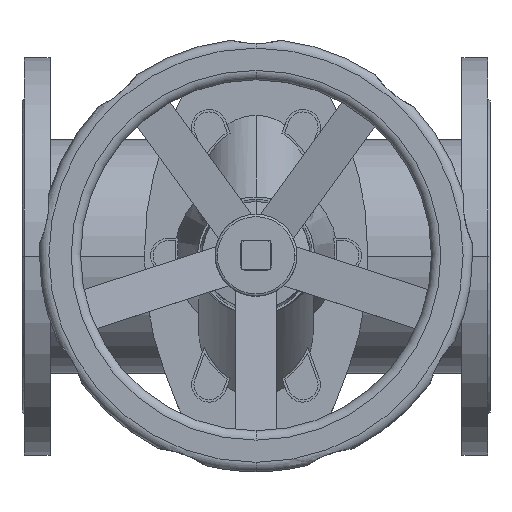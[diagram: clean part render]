
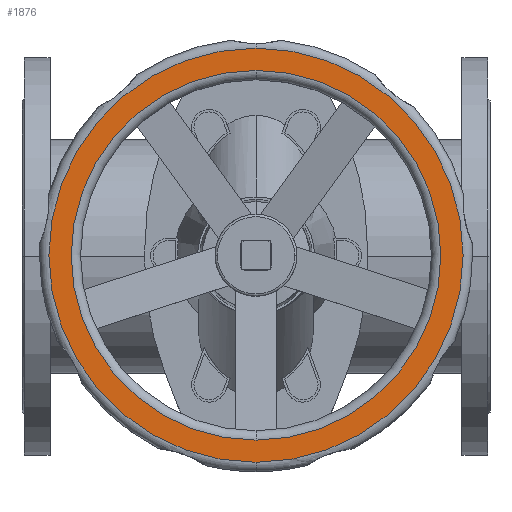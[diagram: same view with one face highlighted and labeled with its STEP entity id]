
A CAD part, top view. The second image highlights one B-rep face of the part: STEP entity #1876.
In plain terms, the highlighted planar face has unit normal (0, 0, 1).
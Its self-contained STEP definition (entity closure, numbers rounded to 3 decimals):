
#1876=ADVANCED_FACE('',(#3649,#3650),#3651,.T.);
#3649=FACE_BOUND('',#5777,.T.);
#3650=FACE_OUTER_BOUND('',#5778,.T.);
#3651=PLANE('',#5779);
#5777=EDGE_LOOP('',(#9614,#9615,#9616));
#5778=EDGE_LOOP('',(#9617,#9618,#9619));
#5779=AXIS2_PLACEMENT_3D('',#9620,#9621,#9622);
#9614=ORIENTED_EDGE('',*,*,#11517,.F.);
#9615=ORIENTED_EDGE('',*,*,#11516,.F.);
#9616=ORIENTED_EDGE('',*,*,#12878,.F.);
#9617=ORIENTED_EDGE('',*,*,#12879,.T.);
#9618=ORIENTED_EDGE('',*,*,#11716,.T.);
#9619=ORIENTED_EDGE('',*,*,#12880,.T.);
#9620=CARTESIAN_POINT('',(32.5,0.,590.0));
#9621=DIRECTION('',(0.,0.,1.0));
#9622=DIRECTION('',(-1.0,0.,0.));
#11516=EDGE_CURVE('',#13586,#13589,#13590,.T.);
#11517=EDGE_CURVE('',#13589,#13591,#13592,.T.);
#11716=EDGE_CURVE('',#13932,#13930,#13933,.T.);
#12878=EDGE_CURVE('',#13591,#13586,#15647,.T.);
#12879=EDGE_CURVE('',#15648,#13932,#15649,.T.);
#12880=EDGE_CURVE('',#13930,#15648,#15650,.T.);
#13586=VERTEX_POINT('',#16479);
#13589=VERTEX_POINT('',#16482);
#13590=CIRCLE('',#16483,158.0);
#13591=VERTEX_POINT('',#16484);
#13592=CIRCLE('',#16485,158.0);
#13930=VERTEX_POINT('',#16914);
#13932=VERTEX_POINT('',#16916);
#13933=CIRCLE('',#16917,177.0);
#15647=CIRCLE('',#19332,158.0);
#15648=VERTEX_POINT('',#19333);
#15649=CIRCLE('',#19334,177.0);
#15650=CIRCLE('',#19335,177.0);
#16479=CARTESIAN_POINT('',(200.0,158.0,590.0));
#16482=CARTESIAN_POINT('',(42.0,0.,590.0));
#16483=AXIS2_PLACEMENT_3D('',#20224,#20225,#20226);
#16484=CARTESIAN_POINT('',(200.0,-158.0,590.0));
#16485=AXIS2_PLACEMENT_3D('',#20227,#20228,#20229);
#16914=CARTESIAN_POINT('',(200.0,177.0,590.0));
#16916=CARTESIAN_POINT('',(200.0,-177.0,590.0));
#16917=AXIS2_PLACEMENT_3D('',#20513,#20514,#20515);
#19332=AXIS2_PLACEMENT_3D('',#22081,#22082,#22083);
#19333=CARTESIAN_POINT('',(23.0,0.,590.0));
#19334=AXIS2_PLACEMENT_3D('',#22084,#22085,#22086);
#19335=AXIS2_PLACEMENT_3D('',#22087,#22088,#22089);
#20224=CARTESIAN_POINT('',(200.0,0.,590.0));
#20225=DIRECTION('',(0.,0.,1.0));
#20226=DIRECTION('',(-1.0,0.,0.));
#20227=CARTESIAN_POINT('',(200.0,0.,590.0));
#20228=DIRECTION('',(0.,0.,1.0));
#20229=DIRECTION('',(-1.0,0.,0.));
#20513=CARTESIAN_POINT('',(200.0,0.,590.0));
#20514=DIRECTION('',(0.,0.,1.0));
#20515=DIRECTION('',(-1.0,0.,0.));
#22081=CARTESIAN_POINT('',(200.0,0.,590.0));
#22082=DIRECTION('',(0.,0.,1.0));
#22083=DIRECTION('',(-1.0,0.,0.));
#22084=CARTESIAN_POINT('',(200.0,0.,590.0));
#22085=DIRECTION('',(0.,0.,1.0));
#22086=DIRECTION('',(-1.0,0.,0.));
#22087=CARTESIAN_POINT('',(200.0,0.,590.0));
#22088=DIRECTION('',(0.,0.,1.0));
#22089=DIRECTION('',(-1.0,0.,0.));
